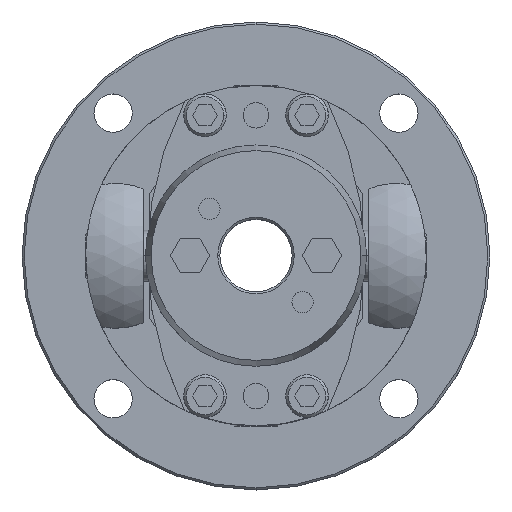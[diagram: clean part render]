
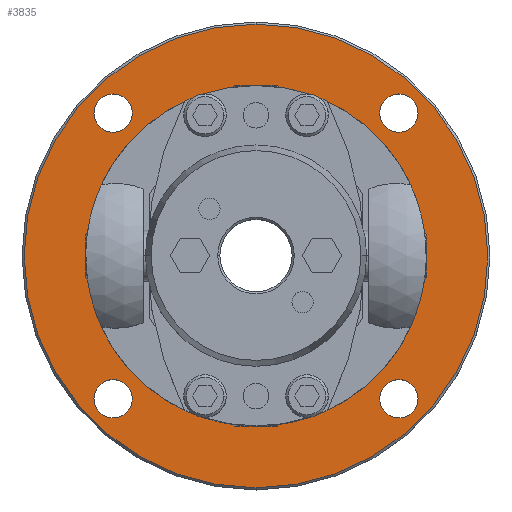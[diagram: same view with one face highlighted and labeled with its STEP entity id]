
A CAD part, top view. The second image highlights one B-rep face of the part: STEP entity #3835.
In plain terms, the highlighted planar face has unit normal (0, 0, 1).
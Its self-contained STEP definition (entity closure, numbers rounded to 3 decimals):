
#730=CARTESIAN_POINT('',(0.,-40.0,-16.0));
#731=VERTEX_POINT('',#730);
#847=CARTESIAN_POINT('',(0.,40.0,-16.0));
#848=VERTEX_POINT('',#847);
#855=CARTESIAN_POINT('',(0.0,0.0,-16.0));
#856=DIRECTION('',(0.0,0.0,-1.0));
#857=DIRECTION('',(0.0,1.0,0.0));
#858=AXIS2_PLACEMENT_3D('',#855,#856,#857);
#859=CIRCLE('',#858,40.0);
#860=EDGE_CURVE('',#731,#848,#859,.T.);
#2239=CARTESIAN_POINT('',(-33.588,38.088,-16.0));
#2240=VERTEX_POINT('',#2239);
#2249=CARTESIAN_POINT('',(-33.588,29.088,-16.0));
#2250=VERTEX_POINT('',#2249);
#2251=CARTESIAN_POINT('',(-33.588,33.588,-16.0));
#2252=DIRECTION('',(0.0,0.0,-1.0));
#2253=DIRECTION('',(0.0,1.0,0.0));
#2254=AXIS2_PLACEMENT_3D('',#2251,#2252,#2253);
#2255=CIRCLE('',#2254,4.5);
#2256=EDGE_CURVE('',#2250,#2240,#2255,.T.);
#2281=CARTESIAN_POINT('',(33.588,38.088,-16.0));
#2282=VERTEX_POINT('',#2281);
#2291=CARTESIAN_POINT('',(33.588,29.088,-16.0));
#2292=VERTEX_POINT('',#2291);
#2293=CARTESIAN_POINT('',(33.588,33.588,-16.0));
#2294=DIRECTION('',(0.0,0.0,-1.0));
#2295=DIRECTION('',(0.0,1.0,0.0));
#2296=AXIS2_PLACEMENT_3D('',#2293,#2294,#2295);
#2297=CIRCLE('',#2296,4.5);
#2298=EDGE_CURVE('',#2292,#2282,#2297,.T.);
#2323=CARTESIAN_POINT('',(33.588,-29.088,-16.0));
#2324=VERTEX_POINT('',#2323);
#2333=CARTESIAN_POINT('',(33.588,-38.088,-16.0));
#2334=VERTEX_POINT('',#2333);
#2335=CARTESIAN_POINT('',(33.588,-33.588,-16.0));
#2336=DIRECTION('',(0.0,0.0,-1.0));
#2337=DIRECTION('',(0.0,1.0,0.0));
#2338=AXIS2_PLACEMENT_3D('',#2335,#2336,#2337);
#2339=CIRCLE('',#2338,4.5);
#2340=EDGE_CURVE('',#2334,#2324,#2339,.T.);
#2365=CARTESIAN_POINT('',(-33.588,-29.088,-16.0));
#2366=VERTEX_POINT('',#2365);
#2375=CARTESIAN_POINT('',(-33.588,-38.088,-16.0));
#2376=VERTEX_POINT('',#2375);
#2377=CARTESIAN_POINT('',(-33.588,-33.588,-16.0));
#2378=DIRECTION('',(0.0,0.0,-1.0));
#2379=DIRECTION('',(0.0,1.0,0.0));
#2380=AXIS2_PLACEMENT_3D('',#2377,#2378,#2379);
#2381=CIRCLE('',#2380,4.5);
#2382=EDGE_CURVE('',#2376,#2366,#2381,.T.);
#2913=CARTESIAN_POINT('',(0.,-54.5,-16.0));
#2914=VERTEX_POINT('',#2913);
#2923=CARTESIAN_POINT('',(0.,54.5,-16.0));
#2924=VERTEX_POINT('',#2923);
#2925=CARTESIAN_POINT('',(0.0,0.0,-16.0));
#2926=DIRECTION('',(0.0,0.0,-1.0));
#2927=DIRECTION('',(0.0,-1.0,0.0));
#2928=AXIS2_PLACEMENT_3D('',#2925,#2926,#2927);
#2929=CIRCLE('',#2928,54.5);
#2930=EDGE_CURVE('',#2914,#2924,#2929,.T.);
#3766=CARTESIAN_POINT('',(0.0,0.0,-16.0));
#3767=DIRECTION('',(0.0,0.0,-1.0));
#3768=DIRECTION('',(0.0,-1.0,0.0));
#3769=AXIS2_PLACEMENT_3D('',#3766,#3767,#3768);
#3770=CIRCLE('',#3769,54.5);
#3771=EDGE_CURVE('',#2924,#2914,#3770,.T.);
#3776=CARTESIAN_POINT('',(0.,5.,-16.0));
#3777=DIRECTION('',(0.0,0.0,1.0));
#3778=DIRECTION('',(0.0,1.0,0.0));
#3779=AXIS2_PLACEMENT_3D('',#3776,#3777,#3778);
#3780=PLANE('',#3779);
#3781=ORIENTED_EDGE('',*,*,#3771,.F.);
#3782=ORIENTED_EDGE('',*,*,#2930,.F.);
#3783=EDGE_LOOP('',(#3781,#3782));
#3784=FACE_OUTER_BOUND('',#3783,.T.);
#3785=ORIENTED_EDGE('',*,*,#860,.T.);
#3786=CARTESIAN_POINT('',(0.0,0.0,-16.0));
#3787=DIRECTION('',(0.0,0.0,-1.0));
#3788=DIRECTION('',(0.0,1.0,0.0));
#3789=AXIS2_PLACEMENT_3D('',#3786,#3787,#3788);
#3790=CIRCLE('',#3789,40.0);
#3791=EDGE_CURVE('',#848,#731,#3790,.T.);
#3792=ORIENTED_EDGE('',*,*,#3791,.T.);
#3793=EDGE_LOOP('',(#3785,#3792));
#3794=FACE_BOUND('',#3793,.T.);
#3795=ORIENTED_EDGE('',*,*,#2256,.T.);
#3796=CARTESIAN_POINT('',(-33.588,33.588,-16.0));
#3797=DIRECTION('',(0.0,0.0,-1.0));
#3798=DIRECTION('',(0.0,1.0,0.0));
#3799=AXIS2_PLACEMENT_3D('',#3796,#3797,#3798);
#3800=CIRCLE('',#3799,4.5);
#3801=EDGE_CURVE('',#2240,#2250,#3800,.T.);
#3802=ORIENTED_EDGE('',*,*,#3801,.T.);
#3803=EDGE_LOOP('',(#3795,#3802));
#3804=FACE_BOUND('',#3803,.T.);
#3805=ORIENTED_EDGE('',*,*,#2298,.T.);
#3806=CARTESIAN_POINT('',(33.588,33.588,-16.0));
#3807=DIRECTION('',(0.0,0.0,-1.0));
#3808=DIRECTION('',(0.0,1.0,0.0));
#3809=AXIS2_PLACEMENT_3D('',#3806,#3807,#3808);
#3810=CIRCLE('',#3809,4.5);
#3811=EDGE_CURVE('',#2282,#2292,#3810,.T.);
#3812=ORIENTED_EDGE('',*,*,#3811,.T.);
#3813=EDGE_LOOP('',(#3805,#3812));
#3814=FACE_BOUND('',#3813,.T.);
#3815=ORIENTED_EDGE('',*,*,#2340,.T.);
#3816=CARTESIAN_POINT('',(33.588,-33.588,-16.0));
#3817=DIRECTION('',(0.0,0.0,-1.0));
#3818=DIRECTION('',(0.0,1.0,0.0));
#3819=AXIS2_PLACEMENT_3D('',#3816,#3817,#3818);
#3820=CIRCLE('',#3819,4.5);
#3821=EDGE_CURVE('',#2324,#2334,#3820,.T.);
#3822=ORIENTED_EDGE('',*,*,#3821,.T.);
#3823=EDGE_LOOP('',(#3815,#3822));
#3824=FACE_BOUND('',#3823,.T.);
#3825=ORIENTED_EDGE('',*,*,#2382,.T.);
#3826=CARTESIAN_POINT('',(-33.588,-33.588,-16.0));
#3827=DIRECTION('',(0.0,0.0,-1.0));
#3828=DIRECTION('',(0.0,1.0,0.0));
#3829=AXIS2_PLACEMENT_3D('',#3826,#3827,#3828);
#3830=CIRCLE('',#3829,4.5);
#3831=EDGE_CURVE('',#2366,#2376,#3830,.T.);
#3832=ORIENTED_EDGE('',*,*,#3831,.T.);
#3833=EDGE_LOOP('',(#3825,#3832));
#3834=FACE_BOUND('',#3833,.T.);
#3835=ADVANCED_FACE('',(#3784,#3794,#3804,#3814,#3824,#3834),#3780,.T.);
